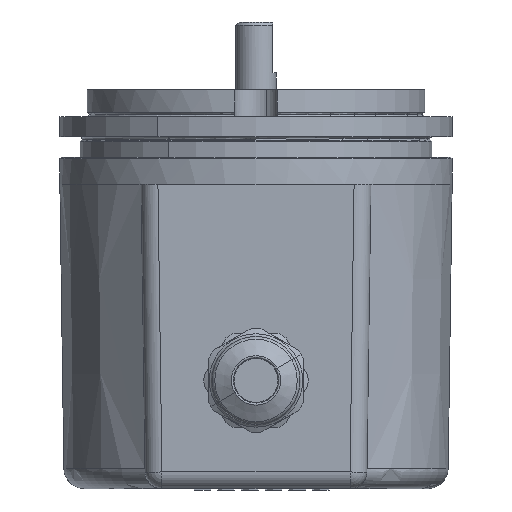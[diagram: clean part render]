
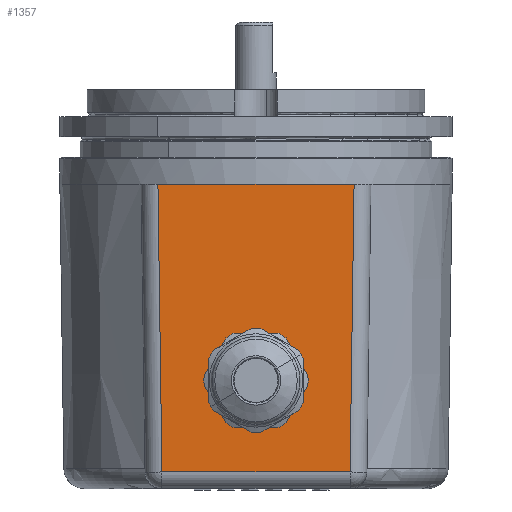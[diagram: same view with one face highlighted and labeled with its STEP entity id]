
A CAD part, front view. The second image highlights one B-rep face of the part: STEP entity #1357.
In plain terms, the highlighted planar face has unit normal (0, -1, -0.014).
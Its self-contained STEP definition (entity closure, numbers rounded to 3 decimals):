
#656 = CARTESIAN_POINT ( 'NONE',  ( 5.65, -28.753, -6.2 ) ) ;
#670 = VERTEX_POINT ( 'NONE', #13488 ) ;
#678 = EDGE_CURVE ( 'NONE', #1449, #670, #835, .T. ) ;
#835 =( BOUNDED_CURVE ( )  B_SPLINE_CURVE ( 3, ( #12442, #14699, #4350, #10158 ),
 .UNSPECIFIED., .F., .T. ) 
 B_SPLINE_CURVE_WITH_KNOTS ( ( 4, 4 ),
 ( 1.571, 4.712 ),
 .UNSPECIFIED. ) 
 CURVE ( )  GEOMETRIC_REPRESENTATION_ITEM ( )  RATIONAL_B_SPLINE_CURVE ( ( 1., 0.333, 0.333, 1. ) ) 
 REPRESENTATION_ITEM ( '' )  );
#967 = CARTESIAN_POINT ( 'NONE',  ( 14.501, -29., 11.535 ) ) ;
#972 = DIRECTION ( 'NONE',  ( 1., 0., 0. ) ) ;
#1357 = ADVANCED_FACE ( 'NONE', ( #13048, #13955 ), #14105, .T. ) ;
#1449 = VERTEX_POINT ( 'NONE', #14480 ) ;
#1968 = CARTESIAN_POINT ( 'NONE',  ( 17., -28.406, -31.035 ) ) ;
#2580 = CARTESIAN_POINT ( 'NONE',  ( -14.494, -28.994, 11.06 ) ) ;
#2607 = CARTESIAN_POINT ( 'NONE',  ( 17., -29., 11.5 ) ) ;
#2614 = CARTESIAN_POINT ( 'NONE',  ( -13.906, -28.406, -31.035 ) ) ;
#2890 = CARTESIAN_POINT ( 'NONE',  ( 17., -29., 11.5 ) ) ;
#3221 = CARTESIAN_POINT ( 'NONE',  ( 5.65, -28.595, -17.5 ) ) ;
#3321 = LINE ( 'NONE', #967, #6364 ) ;
#3429 = ORIENTED_EDGE ( 'NONE', *, *, #6152, .T. ) ;
#3681 = CARTESIAN_POINT ( 'NONE',  ( 0., -29., 11.5 ) ) ;
#4350 = CARTESIAN_POINT ( 'NONE',  ( 5.65, -28.437, -28.8 ) ) ;
#4386 = DIRECTION ( 'NONE',  ( 0.014, -0.014, 1. ) ) ;
#4442 = CARTESIAN_POINT ( 'NONE',  ( -5.65, -28.595, -17.5 ) ) ;
#4648 = EDGE_LOOP ( 'NONE', ( #14952, #13667, #5449, #3429, #9540 ) ) ;
#5192 = ORIENTED_EDGE ( 'NONE', *, *, #12324, .F. ) ;
#5221 = VECTOR ( 'NONE', #972, 1000. ) ;
#5448 = CARTESIAN_POINT ( 'NONE',  ( -5.65, -28.753, -6.2 ) ) ;
#5449 = ORIENTED_EDGE ( 'NONE', *, *, #11307, .T. ) ;
#5908 =( BOUNDED_CURVE ( )  B_SPLINE_CURVE ( 3, ( #3221, #656, #5448, #4442 ),
 .UNSPECIFIED., .F., .T. ) 
 B_SPLINE_CURVE_WITH_KNOTS ( ( 4, 4 ),
 ( 4.712, 7.854 ),
 .UNSPECIFIED. ) 
 CURVE ( )  GEOMETRIC_REPRESENTATION_ITEM ( )  RATIONAL_B_SPLINE_CURVE ( ( 1., 0.333, 0.333, 1. ) ) 
 REPRESENTATION_ITEM ( '' )  );
#6098 = CARTESIAN_POINT ( 'NONE',  ( 14.5, -29., 11.5 ) ) ;
#6126 = DIRECTION ( 'NONE',  ( 0., -0.014, 1. ) ) ;
#6152 = EDGE_CURVE ( 'NONE', #12909, #9119, #3321, .T. ) ;
#6364 = VECTOR ( 'NONE', #4386, 1000. ) ;
#6545 = VECTOR ( 'NONE', #7632, 1000. ) ;
#7239 = DIRECTION ( 'NONE',  ( 0.014, 0.014, -1. ) ) ;
#7556 = LINE ( 'NONE', #2890, #6545 ) ;
#7632 = DIRECTION ( 'NONE',  ( 1., 0., 0. ) ) ;
#8028 = VECTOR ( 'NONE', #11005, 1000. ) ;
#8373 = CARTESIAN_POINT ( 'NONE',  ( 13.906, -28.406, -31.035 ) ) ;
#8411 = LINE ( 'NONE', #9865, #8028 ) ;
#8415 = AXIS2_PLACEMENT_3D ( 'NONE', #2607, #13121, #6126 ) ;
#8529 = EDGE_LOOP ( 'NONE', ( #5192, #9999 ) ) ;
#9119 = VERTEX_POINT ( 'NONE', #6098 ) ;
#9123 = EDGE_CURVE ( 'NONE', #12638, #11922, #14216, .T. ) ;
#9357 = EDGE_CURVE ( 'NONE', #12638, #11879, #8411, .T. ) ;
#9540 = ORIENTED_EDGE ( 'NONE', *, *, #14263, .F. ) ;
#9865 = CARTESIAN_POINT ( 'NONE',  ( 17., -29., 11.5 ) ) ;
#9999 = ORIENTED_EDGE ( 'NONE', *, *, #678, .F. ) ;
#10158 = CARTESIAN_POINT ( 'NONE',  ( 5.65, -28.595, -17.5 ) ) ;
#11005 = DIRECTION ( 'NONE',  ( 1., 0., 0. ) ) ;
#11307 = EDGE_CURVE ( 'NONE', #11922, #12909, #12618, .T. ) ;
#11879 = VERTEX_POINT ( 'NONE', #3681 ) ;
#11906 = CARTESIAN_POINT ( 'NONE',  ( -14.5, -29., 11.5 ) ) ;
#11922 = VERTEX_POINT ( 'NONE', #2614 ) ;
#12324 = EDGE_CURVE ( 'NONE', #670, #1449, #5908, .T. ) ;
#12442 = CARTESIAN_POINT ( 'NONE',  ( -5.65, -28.595, -17.5 ) ) ;
#12618 = LINE ( 'NONE', #1968, #5221 ) ;
#12638 = VERTEX_POINT ( 'NONE', #11906 ) ;
#12885 = VECTOR ( 'NONE', #7239, 1000. ) ;
#12909 = VERTEX_POINT ( 'NONE', #8373 ) ;
#13048 = FACE_BOUND ( 'NONE', #8529, .T. ) ;
#13121 = DIRECTION ( 'NONE',  ( 0., -1., -0.014 ) ) ;
#13488 = CARTESIAN_POINT ( 'NONE',  ( 5.65, -28.595, -17.5 ) ) ;
#13667 = ORIENTED_EDGE ( 'NONE', *, *, #9123, .T. ) ;
#13955 = FACE_OUTER_BOUND ( 'NONE', #4648, .T. ) ;
#14105 = PLANE ( 'NONE',  #8415 ) ;
#14216 = LINE ( 'NONE', #2580, #12885 ) ;
#14263 = EDGE_CURVE ( 'NONE', #11879, #9119, #7556, .T. ) ;
#14480 = CARTESIAN_POINT ( 'NONE',  ( -5.65, -28.595, -17.5 ) ) ;
#14699 = CARTESIAN_POINT ( 'NONE',  ( -5.65, -28.437, -28.8 ) ) ;
#14952 = ORIENTED_EDGE ( 'NONE', *, *, #9357, .F. ) ;
